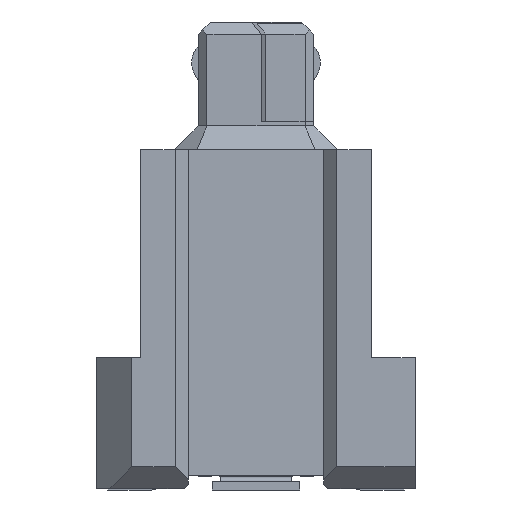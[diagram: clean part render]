
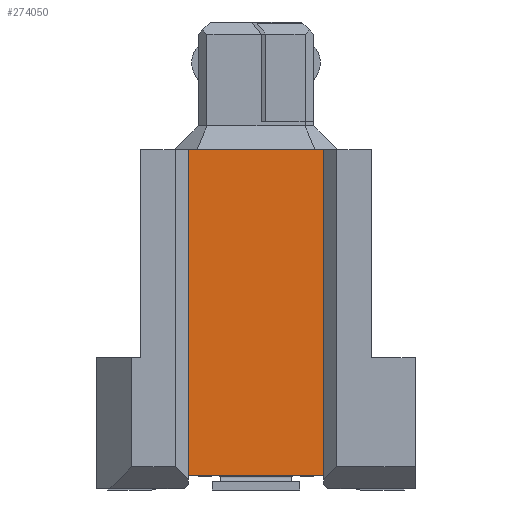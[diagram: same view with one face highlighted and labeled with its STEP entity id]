
A CAD part, left-side view. The second image highlights one B-rep face of the part: STEP entity #274050.
In plain terms, the highlighted planar face has unit normal (-1, 0, 0).
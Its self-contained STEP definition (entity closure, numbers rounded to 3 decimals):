
#251990=CARTESIAN_POINT('',(9.968,2.41,4.2));
#252000=VERTEX_POINT('',#251990);
#252030=CARTESIAN_POINT('',(9.968,2.41,0.));
#252040=DIRECTION('',(0.,0.,-1.));
#252050=VECTOR('',#252040,1.);
#252060=LINE('',#252030,#252050);
#252070=CARTESIAN_POINT('',(9.968,2.41,1.1));
#252080=VERTEX_POINT('',#252070);
#252090=EDGE_CURVE('',#252000,#252080,#252060,.T.);
#256820=CARTESIAN_POINT('',(9.968,-5.06,4.2));
#256830=VERTEX_POINT('',#256820);
#256860=CARTESIAN_POINT('',(9.968,0.,4.2));
#256870=DIRECTION('',(0.,-1.,0.));
#256880=VECTOR('',#256870,1.);
#256890=LINE('',#256860,#256880);
#256900=EDGE_CURVE('',#252000,#256830,#256890,.T.);
#259960=CARTESIAN_POINT('',(9.968,-5.06,1.1));
#259970=VERTEX_POINT('',#259960);
#260100=CARTESIAN_POINT('',(9.968,-2.36,1.1));
#260110=DIRECTION('',(0.,1.,0.));
#260120=VECTOR('',#260110,1.);
#260130=LINE('',#260100,#260120);
#260140=EDGE_CURVE('',#259970,#252080,#260130,.T.);
#260250=CARTESIAN_POINT('',(9.968,-5.06,0.));
#260260=DIRECTION('',(0.,0.,-1.));
#260270=VECTOR('',#260260,1.);
#260280=LINE('',#260250,#260270);
#260290=EDGE_CURVE('',#256830,#259970,#260280,.T.);
#273940=CARTESIAN_POINT('',(9.968,-3.36,5.3));
#273950=DIRECTION('',(-1.,0.,0.));
#273960=DIRECTION('',(0.,1.,0.));
#273970=AXIS2_PLACEMENT_3D('',#273940,#273950,#273960);
#273980=PLANE('',#273970);
#273990=ORIENTED_EDGE('',*,*,#260290,.F.);
#274000=ORIENTED_EDGE('',*,*,#260140,.F.);
#274010=ORIENTED_EDGE('',*,*,#252090,.T.);
#274020=ORIENTED_EDGE('',*,*,#256900,.F.);
#274030=EDGE_LOOP('',(#274020,#274010,#274000,#273990));
#274040=FACE_OUTER_BOUND('',#274030,.T.);
#274050=ADVANCED_FACE('',(#274040),#273980,.T.);
